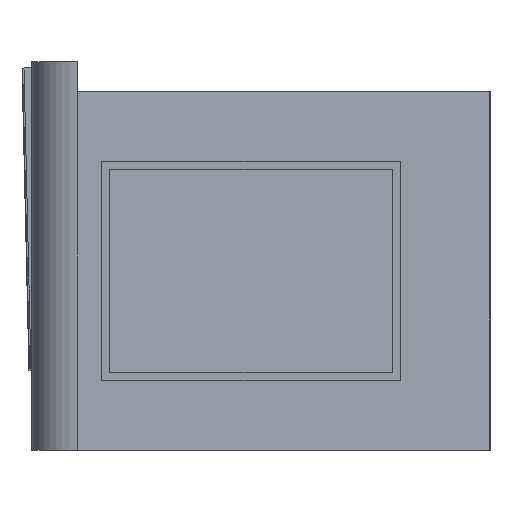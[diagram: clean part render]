
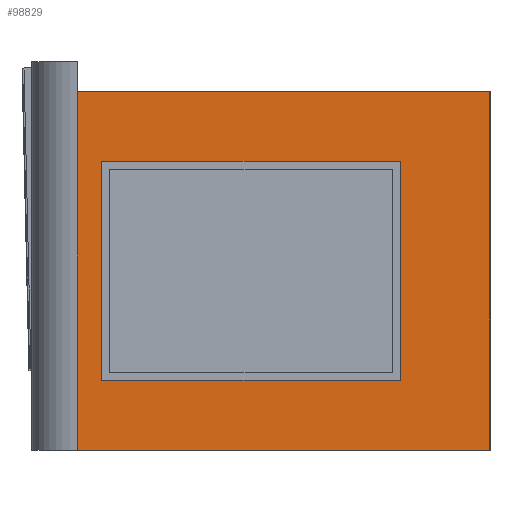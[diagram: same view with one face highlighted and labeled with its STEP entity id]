
A CAD part, left-side view. The second image highlights one B-rep face of the part: STEP entity #98829.
In plain terms, the highlighted planar face has unit normal (-1, 0, 0).
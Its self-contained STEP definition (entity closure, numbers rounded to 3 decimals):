
#1115 = CARTESIAN_POINT ( 'NONE',  ( -2134.959, 257.329, 9475. ) ) ;
#1302 = VECTOR ( 'NONE', #113797, 1000. ) ;
#2538 = VECTOR ( 'NONE', #98483, 1000. ) ;
#4359 = VECTOR ( 'NONE', #152276, 1000. ) ;
#5071 = EDGE_CURVE ( 'NONE', #147949, #58893, #45390, .T. ) ;
#5665 = CARTESIAN_POINT ( 'NONE',  ( -2134.959, 257.329, 9975. ) ) ;
#9635 = CARTESIAN_POINT ( 'NONE',  ( -2134.959, 870.716, 9975. ) ) ;
#16916 = CARTESIAN_POINT ( 'NONE',  ( -2134.959, 257.329, 9825. ) ) ;
#19904 = LINE ( 'NONE', #147156, #72405 ) ;
#20425 = DIRECTION ( 'NONE',  ( 0., 1., 0. ) ) ;
#20820 = EDGE_CURVE ( 'NONE', #137348, #128876, #165521, .T. ) ;
#22232 = FACE_BOUND ( 'NONE', #80859, .T. ) ;
#23152 = PLANE ( 'NONE',  #23697 ) ;
#23697 = AXIS2_PLACEMENT_3D ( 'NONE', #5665, #36089, #20425 ) ;
#23944 = EDGE_CURVE ( 'NONE', #147949, #144239, #19904, .T. ) ;
#24843 = ORIENTED_EDGE ( 'NONE', *, *, #5071, .F. ) ;
#26367 = CARTESIAN_POINT ( 'NONE',  ( -2134.959, 748.646, 9475. ) ) ;
#26851 = LINE ( 'NONE', #39791, #4359 ) ;
#27103 = EDGE_CURVE ( 'NONE', #84048, #121725, #36532, .T. ) ;
#29023 = VERTEX_POINT ( 'NONE', #132943 ) ;
#30388 = DIRECTION ( 'NONE',  ( 0., 0., -1. ) ) ;
#34267 = VECTOR ( 'NONE', #34554, 1000. ) ;
#34554 = DIRECTION ( 'NONE',  ( 0., -1., 0. ) ) ;
#35426 = ORIENTED_EDGE ( 'NONE', *, *, #182316, .F. ) ;
#36089 = DIRECTION ( 'NONE',  ( 1., 0., 0. ) ) ;
#36532 = LINE ( 'NONE', #47664, #108425 ) ;
#37728 = CARTESIAN_POINT ( 'NONE',  ( -2134.959, 870.795, 8025. ) ) ;
#39654 = EDGE_LOOP ( 'NONE', ( #130938, #101380, #69107, #82563, #35426, #178629 ) ) ;
#39791 = CARTESIAN_POINT ( 'NONE',  ( -2134.959, 257.329, 8025. ) ) ;
#41299 = ORIENTED_EDGE ( 'NONE', *, *, #23944, .T. ) ;
#44960 = CARTESIAN_POINT ( 'NONE',  ( -2134.959, -1201.354, 9975. ) ) ;
#45390 = LINE ( 'NONE', #1115, #150741 ) ;
#47503 = LINE ( 'NONE', #144333, #34267 ) ;
#47625 = EDGE_CURVE ( 'NONE', #121725, #66230, #26851, .T. ) ;
#47664 = CARTESIAN_POINT ( 'NONE',  ( -2134.959, 870.795, 9975. ) ) ;
#52023 = VECTOR ( 'NONE', #148062, 1000. ) ;
#52510 = EDGE_CURVE ( 'NONE', #29023, #66230, #155630, .T. ) ;
#53937 = DIRECTION ( 'NONE',  ( 0., 0., 1. ) ) ;
#58893 = VERTEX_POINT ( 'NONE', #26367 ) ;
#66230 = VERTEX_POINT ( 'NONE', #168854 ) ;
#69107 = ORIENTED_EDGE ( 'NONE', *, *, #72661, .F. ) ;
#69208 = VERTEX_POINT ( 'NONE', #138067 ) ;
#72405 = VECTOR ( 'NONE', #132400, 1000. ) ;
#72661 = EDGE_CURVE ( 'NONE', #137348, #29023, #143248, .T. ) ;
#73699 = CARTESIAN_POINT ( 'NONE',  ( -2134.959, 748.646, 9975. ) ) ;
#80859 = EDGE_LOOP ( 'NONE', ( #41299, #112769, #103612, #24843 ) ) ;
#82342 = CARTESIAN_POINT ( 'NONE',  ( -2134.959, 870.795, 9975. ) ) ;
#82563 = ORIENTED_EDGE ( 'NONE', *, *, #20820, .T. ) ;
#83963 = CARTESIAN_POINT ( 'NONE',  ( -2134.959, 870.716, 9825. ) ) ;
#84048 = VERTEX_POINT ( 'NONE', #82342 ) ;
#84675 = VECTOR ( 'NONE', #30388, 1000. ) ;
#88333 = CARTESIAN_POINT ( 'NONE',  ( -2134.959, -751.354, 9475. ) ) ;
#98483 = DIRECTION ( 'NONE',  ( 0., 0., -1. ) ) ;
#98829 = ADVANCED_FACE ( 'NONE', ( #22232, #147674 ), #23152, .F. ) ;
#101380 = ORIENTED_EDGE ( 'NONE', *, *, #52510, .F. ) ;
#103612 = ORIENTED_EDGE ( 'NONE', *, *, #121280, .F. ) ;
#103909 = DIRECTION ( 'NONE',  ( 0., 0., -1. ) ) ;
#108425 = VECTOR ( 'NONE', #103909, 1000. ) ;
#112769 = ORIENTED_EDGE ( 'NONE', *, *, #178115, .F. ) ;
#112997 = VECTOR ( 'NONE', #53937, 1000. ) ;
#113797 = DIRECTION ( 'NONE',  ( 0., -1., 0. ) ) ;
#121280 = EDGE_CURVE ( 'NONE', #58893, #69208, #156720, .T. ) ;
#121725 = VERTEX_POINT ( 'NONE', #37728 ) ;
#123136 = CARTESIAN_POINT ( 'NONE',  ( -2134.959, 257.329, 8375. ) ) ;
#127978 = CARTESIAN_POINT ( 'NONE',  ( -2134.959, -751.354, 8375. ) ) ;
#128876 = VERTEX_POINT ( 'NONE', #176132 ) ;
#130938 = ORIENTED_EDGE ( 'NONE', *, *, #47625, .T. ) ;
#132400 = DIRECTION ( 'NONE',  ( 0., 0., -1. ) ) ;
#132943 = CARTESIAN_POINT ( 'NONE',  ( -2134.959, -1201.354, 9825. ) ) ;
#135135 = LINE ( 'NONE', #123136, #52023 ) ;
#137348 = VERTEX_POINT ( 'NONE', #83963 ) ;
#138067 = CARTESIAN_POINT ( 'NONE',  ( -2134.959, 748.646, 8375. ) ) ;
#142211 = DIRECTION ( 'NONE',  ( 0., 1., 0. ) ) ;
#143248 = LINE ( 'NONE', #16916, #1302 ) ;
#144239 = VERTEX_POINT ( 'NONE', #127978 ) ;
#144333 = CARTESIAN_POINT ( 'NONE',  ( -2134.959, 257.329, 9975. ) ) ;
#147156 = CARTESIAN_POINT ( 'NONE',  ( -2134.959, -751.354, 8306.683 ) ) ;
#147674 = FACE_OUTER_BOUND ( 'NONE', #39654, .T. ) ;
#147949 = VERTEX_POINT ( 'NONE', #88333 ) ;
#148062 = DIRECTION ( 'NONE',  ( 0., -1., 0. ) ) ;
#150741 = VECTOR ( 'NONE', #142211, 1000. ) ;
#152276 = DIRECTION ( 'NONE',  ( 0., -1., 0. ) ) ;
#155630 = LINE ( 'NONE', #44960, #2538 ) ;
#156720 = LINE ( 'NONE', #73699, #84675 ) ;
#165521 = LINE ( 'NONE', #9635, #112997 ) ;
#168854 = CARTESIAN_POINT ( 'NONE',  ( -2134.959, -1201.354, 8025. ) ) ;
#176132 = CARTESIAN_POINT ( 'NONE',  ( -2134.959, 870.716, 9975. ) ) ;
#178115 = EDGE_CURVE ( 'NONE', #69208, #144239, #135135, .T. ) ;
#178629 = ORIENTED_EDGE ( 'NONE', *, *, #27103, .T. ) ;
#182316 = EDGE_CURVE ( 'NONE', #84048, #128876, #47503, .T. ) ;
